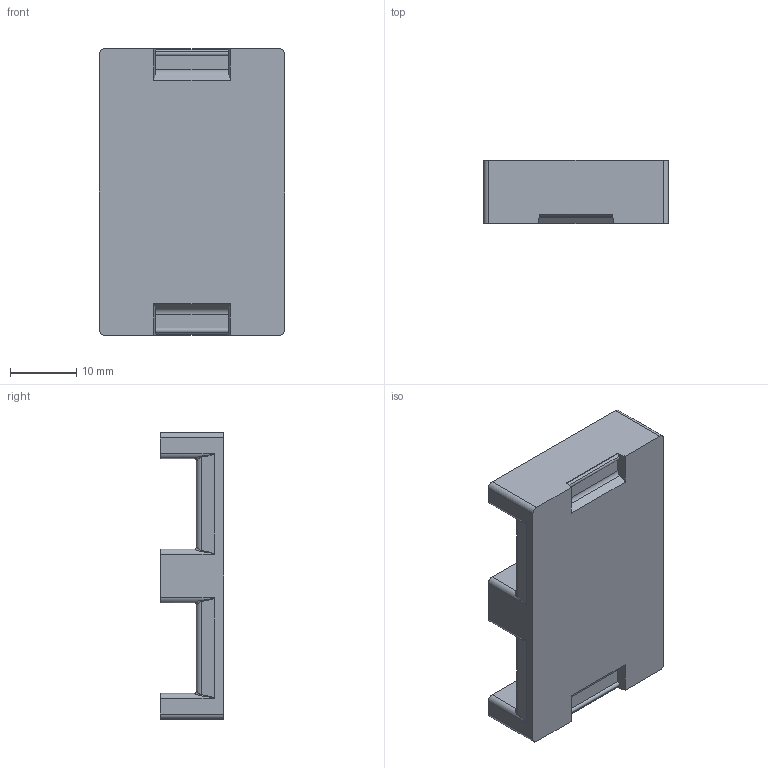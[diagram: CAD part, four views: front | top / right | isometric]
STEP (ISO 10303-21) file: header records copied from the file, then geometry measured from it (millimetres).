
FILE_DESCRIPTION((''),'2;1');
FILE_NAME('C61036-A0299-C024-01-7606','2018-05-16T',('ec7121'),(''),'PRO/ENGINEER BY PARAMETRIC TECHNOLOGY CORPORATION, 2014000','PRO/ENGINEER BY PARAMETRIC TECHNOLOGY CORPORATION, 2014000','');
FILE_SCHEMA(('CONFIG_CONTROL_DESIGN'));
Length unit declared in the file: millimetre
Products named in the file (1): C61036-A0299-C024-01-7606
Bounding box: 27.9 x 9.5 x 43.2 mm (x, y, z)
Volume: 7184.5 mm3; surface area: 4003.8 mm2
Topology: 1 solids, 1 shells, 78 faces, 204 edges, 128 vertices
Faces by surface type: plane 30, cylinder 24, bspline 16, torus 8
Entity records: 6446 total; most frequent: CARTESIAN_POINT 4606, ORIENTED_EDGE 408, DIRECTION 336, EDGE_CURVE 204, VERTEX_POINT 128, AXIS2_PLACEMENT_3D 118, VECTOR 100, LINE 100
